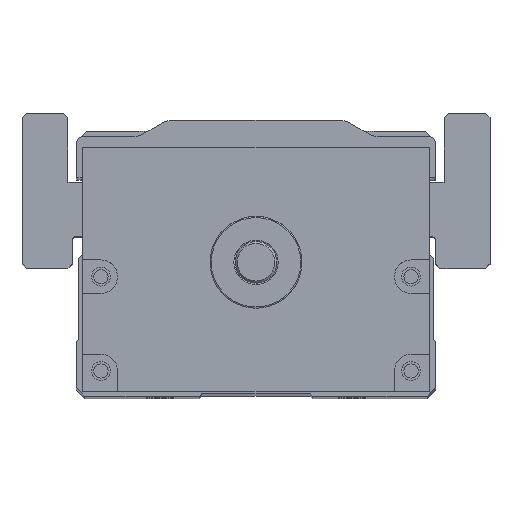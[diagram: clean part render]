
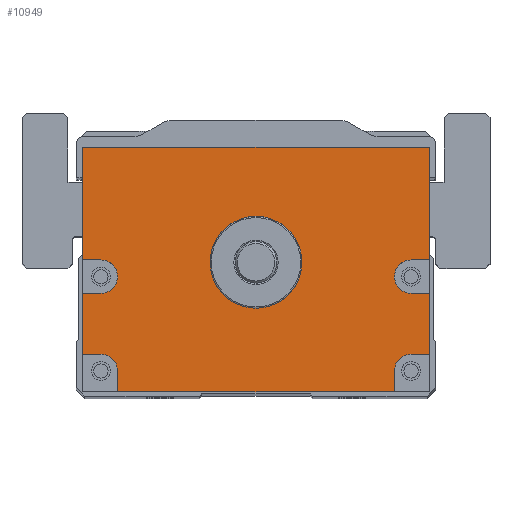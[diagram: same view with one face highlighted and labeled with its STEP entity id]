
A CAD part, top view. The second image highlights one B-rep face of the part: STEP entity #10949.
In plain terms, the highlighted planar face has unit normal (0, 0, 1).
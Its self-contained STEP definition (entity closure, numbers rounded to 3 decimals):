
#803=LINE('',#44138,#2333);
#805=LINE('',#44146,#2335);
#806=LINE('',#44149,#2336);
#807=LINE('',#44151,#2337);
#808=LINE('',#44155,#2338);
#809=LINE('',#44157,#2339);
#810=LINE('',#44158,#2340);
#811=LINE('',#44160,#2341);
#812=LINE('',#44164,#2342);
#813=LINE('',#44166,#2343);
#814=LINE('',#44168,#2344);
#815=LINE('',#44172,#2345);
#816=LINE('',#44174,#2346);
#817=LINE('',#44176,#2347);
#2333=VECTOR('',#29694,1.);
#2335=VECTOR('',#29702,1.);
#2336=VECTOR('',#29703,1.);
#2337=VECTOR('',#29704,1.);
#2338=VECTOR('',#29707,1.);
#2339=VECTOR('',#29708,1.);
#2340=VECTOR('',#29709,1.);
#2341=VECTOR('',#29710,1.);
#2342=VECTOR('',#29713,1.);
#2343=VECTOR('',#29714,1.);
#2344=VECTOR('',#29715,1.);
#2345=VECTOR('',#29718,1.);
#2346=VECTOR('',#29719,1.);
#2347=VECTOR('',#29720,1.);
#10949=ADVANCED_FACE('',(#12804,#12805),#12071,.T.);
#12071=PLANE('',#27126);
#12804=FACE_BOUND('',#13851,.T.);
#12805=FACE_BOUND('',#13852,.T.);
#13851=EDGE_LOOP('',(#16230,#16231,#16232,#16233,#16234,#16235,#16236,#16237,
#16238,#16239,#16240,#16241,#16242,#16243,#16244,#16245,#16246,#16247));
#13852=EDGE_LOOP('',(#16248));
#16230=ORIENTED_EDGE('',*,*,#23539,.F.);
#16231=ORIENTED_EDGE('',*,*,#23540,.T.);
#16232=ORIENTED_EDGE('',*,*,#23541,.F.);
#16233=ORIENTED_EDGE('',*,*,#23542,.F.);
#16234=ORIENTED_EDGE('',*,*,#23543,.F.);
#16235=ORIENTED_EDGE('',*,*,#23544,.T.);
#16236=ORIENTED_EDGE('',*,*,#23535,.T.);
#16237=ORIENTED_EDGE('',*,*,#23545,.T.);
#16238=ORIENTED_EDGE('',*,*,#23546,.F.);
#16239=ORIENTED_EDGE('',*,*,#23547,.F.);
#16240=ORIENTED_EDGE('',*,*,#23548,.F.);
#16241=ORIENTED_EDGE('',*,*,#23549,.T.);
#16242=ORIENTED_EDGE('',*,*,#23550,.F.);
#16243=ORIENTED_EDGE('',*,*,#23551,.F.);
#16244=ORIENTED_EDGE('',*,*,#23552,.F.);
#16245=ORIENTED_EDGE('',*,*,#23553,.T.);
#16246=ORIENTED_EDGE('',*,*,#23554,.F.);
#16247=ORIENTED_EDGE('',*,*,#23555,.F.);
#16248=ORIENTED_EDGE('',*,*,#23521,.T.);
#21349=VERTEX_POINT('',#44109);
#21362=VERTEX_POINT('',#44137);
#21363=VERTEX_POINT('',#44139);
#21366=VERTEX_POINT('',#44147);
#21367=VERTEX_POINT('',#44148);
#21368=VERTEX_POINT('',#44150);
#21369=VERTEX_POINT('',#44152);
#21370=VERTEX_POINT('',#44154);
#21371=VERTEX_POINT('',#44156);
#21372=VERTEX_POINT('',#44159);
#21373=VERTEX_POINT('',#44161);
#21374=VERTEX_POINT('',#44163);
#21375=VERTEX_POINT('',#44165);
#21376=VERTEX_POINT('',#44167);
#21377=VERTEX_POINT('',#44169);
#21378=VERTEX_POINT('',#44171);
#21379=VERTEX_POINT('',#44173);
#21380=VERTEX_POINT('',#44175);
#21381=VERTEX_POINT('',#44177);
#23521=EDGE_CURVE('',#21349,#21349,#26071,.T.);
#23535=EDGE_CURVE('',#21363,#21362,#803,.T.);
#23539=EDGE_CURVE('',#21366,#21367,#805,.T.);
#23540=EDGE_CURVE('',#21366,#21368,#806,.T.);
#23541=EDGE_CURVE('',#21369,#21368,#807,.T.);
#23542=EDGE_CURVE('',#21370,#21369,#26082,.T.);
#23543=EDGE_CURVE('',#21371,#21370,#808,.T.);
#23544=EDGE_CURVE('',#21371,#21363,#809,.T.);
#23545=EDGE_CURVE('',#21362,#21372,#810,.T.);
#23546=EDGE_CURVE('',#21373,#21372,#811,.T.);
#23547=EDGE_CURVE('',#21374,#21373,#26083,.T.);
#23548=EDGE_CURVE('',#21375,#21374,#812,.T.);
#23549=EDGE_CURVE('',#21375,#21376,#813,.T.);
#23550=EDGE_CURVE('',#21377,#21376,#814,.T.);
#23551=EDGE_CURVE('',#21378,#21377,#26084,.T.);
#23552=EDGE_CURVE('',#21379,#21378,#815,.T.);
#23553=EDGE_CURVE('',#21379,#21380,#816,.T.);
#23554=EDGE_CURVE('',#21381,#21380,#817,.T.);
#23555=EDGE_CURVE('',#21367,#21381,#26085,.T.);
#26071=CIRCLE('',#27108,11.);
#26082=CIRCLE('',#27122,4.);
#26083=CIRCLE('',#27123,4.);
#26084=CIRCLE('',#27124,4.);
#26085=CIRCLE('',#27125,4.);
#27108=AXIS2_PLACEMENT_3D('',#44108,#29667,#29668);
#27122=AXIS2_PLACEMENT_3D('',#44153,#29705,#29706);
#27123=AXIS2_PLACEMENT_3D('',#44162,#29711,#29712);
#27124=AXIS2_PLACEMENT_3D('',#44170,#29716,#29717);
#27125=AXIS2_PLACEMENT_3D('',#44178,#29721,#29722);
#27126=AXIS2_PLACEMENT_3D('',#44179,#29723,#29724);
#29667=DIRECTION('',(0.,0.,-1.));
#29668=DIRECTION('',(1.,0.,0.));
#29694=DIRECTION('',(-1.,0.,0.));
#29702=DIRECTION('',(-1.,0.,0.));
#29703=DIRECTION('',(0.,1.,0.));
#29704=DIRECTION('',(1.,0.,0.));
#29705=DIRECTION('',(0.,0.,1.));
#29706=DIRECTION('',(1.,0.,0.));
#29707=DIRECTION('',(-1.,0.,0.));
#29708=DIRECTION('',(0.,1.,0.));
#29709=DIRECTION('',(0.,-1.,0.));
#29710=DIRECTION('',(-1.,0.,0.));
#29711=DIRECTION('',(0.,0.,1.));
#29712=DIRECTION('',(1.,0.,0.));
#29713=DIRECTION('',(1.,0.,0.));
#29714=DIRECTION('',(0.,-1.,0.));
#29715=DIRECTION('',(-1.,0.,0.));
#29716=DIRECTION('',(0.,0.,1.));
#29717=DIRECTION('',(1.,0.,0.));
#29718=DIRECTION('',(0.,1.,0.));
#29719=DIRECTION('',(1.,0.,0.));
#29720=DIRECTION('',(0.,-1.,0.));
#29721=DIRECTION('',(0.,0.,1.));
#29722=DIRECTION('',(1.,0.,0.));
#29723=DIRECTION('',(0.,0.,1.));
#29724=DIRECTION('',(1.,0.,0.));
#44108=CARTESIAN_POINT('',(750.,0.,182.5));
#44109=CARTESIAN_POINT('',(761.,0.,182.5));
#44137=CARTESIAN_POINT('',(708.5,27.5,182.5));
#44138=CARTESIAN_POINT('',(791.5,27.5,182.5));
#44139=CARTESIAN_POINT('',(791.5,27.5,182.5));
#44146=CARTESIAN_POINT('',(791.5,-22.,182.5));
#44147=CARTESIAN_POINT('',(791.5,-22.,182.5));
#44148=CARTESIAN_POINT('',(787.115,-22.,182.5));
#44149=CARTESIAN_POINT('',(791.5,-31.,182.5));
#44150=CARTESIAN_POINT('',(791.5,-7.431,182.5));
#44151=CARTESIAN_POINT('',(791.5,-7.431,182.5));
#44152=CARTESIAN_POINT('',(787.115,-7.431,182.5));
#44153=CARTESIAN_POINT('',(787.115,-3.431,182.5));
#44154=CARTESIAN_POINT('',(787.115,0.569,182.5));
#44155=CARTESIAN_POINT('',(791.5,0.569,182.5));
#44156=CARTESIAN_POINT('',(791.5,0.569,182.5));
#44157=CARTESIAN_POINT('',(791.5,-31.,182.5));
#44158=CARTESIAN_POINT('',(708.5,27.5,182.5));
#44159=CARTESIAN_POINT('',(708.5,0.569,182.5));
#44160=CARTESIAN_POINT('',(791.5,0.569,182.5));
#44161=CARTESIAN_POINT('',(712.885,0.569,182.5));
#44162=CARTESIAN_POINT('',(712.885,-3.431,182.5));
#44163=CARTESIAN_POINT('',(712.885,-7.431,182.5));
#44164=CARTESIAN_POINT('',(791.5,-7.431,182.5));
#44165=CARTESIAN_POINT('',(708.5,-7.431,182.5));
#44166=CARTESIAN_POINT('',(708.5,27.5,182.5));
#44167=CARTESIAN_POINT('',(708.5,-22.,182.5));
#44168=CARTESIAN_POINT('',(791.5,-22.,182.5));
#44169=CARTESIAN_POINT('',(712.885,-22.,182.5));
#44170=CARTESIAN_POINT('',(712.885,-26.,182.5));
#44171=CARTESIAN_POINT('',(716.885,-26.,182.5));
#44172=CARTESIAN_POINT('',(716.885,-31.,182.5));
#44173=CARTESIAN_POINT('',(716.885,-31.,182.5));
#44174=CARTESIAN_POINT('',(708.5,-31.,182.5));
#44175=CARTESIAN_POINT('',(783.115,-31.,182.5));
#44176=CARTESIAN_POINT('',(783.115,-31.,182.5));
#44177=CARTESIAN_POINT('',(783.115,-26.,182.5));
#44178=CARTESIAN_POINT('',(787.115,-26.,182.5));
#44179=CARTESIAN_POINT('',(791.5,-31.,182.5));
